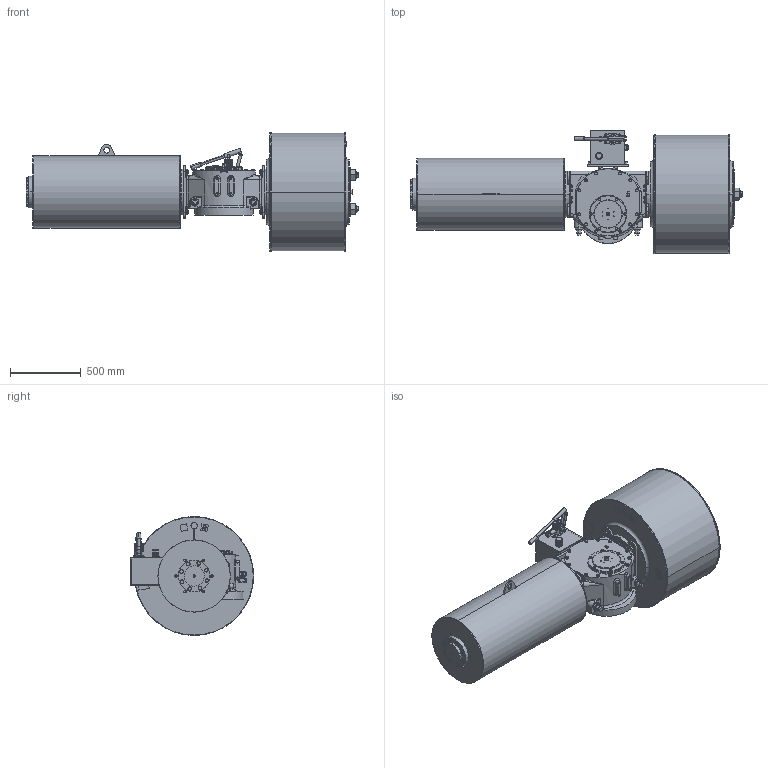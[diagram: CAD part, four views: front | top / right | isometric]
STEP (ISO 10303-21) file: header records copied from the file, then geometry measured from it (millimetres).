
FILE_DESCRIPTION (( 'STEP AP203' ), '1' );
FILE_NAME ('VTS5-800-SR-MH-FO.STEP', '2023-01-01T09:50:01', ( '' ), ( '' ), 'SwSTEP 2.0', 'SolidWorks 2020', '' );
FILE_SCHEMA (( 'CONFIG_CONTROL_DESIGN' ));
Length unit declared in the file: millimetre
Products named in the file (1): VTS5-800-SR-MH-FO
Bounding box: 2341 x 869.5 x 839 mm (x, y, z)
Volume: 585650023.7 mm3; surface area: 7556005.4 mm2
Topology: 52 solids, 55 shells, 3067 faces, 7675 edges, 4849 vertices
Faces by surface type: plane 1223, cylinder 1088, cone 659, bspline 89, torus 8
Entity records: 105907 total; most frequent: CARTESIAN_POINT 32895, DIRECTION 15477, ORIENTED_EDGE 15142, EDGE_CURVE 7571, AXIS2_PLACEMENT_3D 6140, VERTEX_POINT 4849, EDGE_LOOP 3488, LINE 3197
